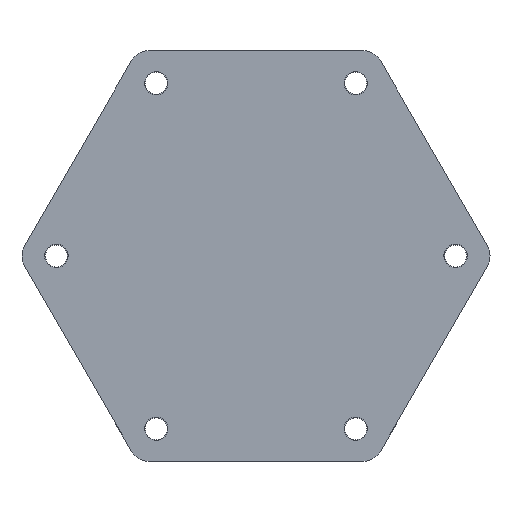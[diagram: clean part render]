
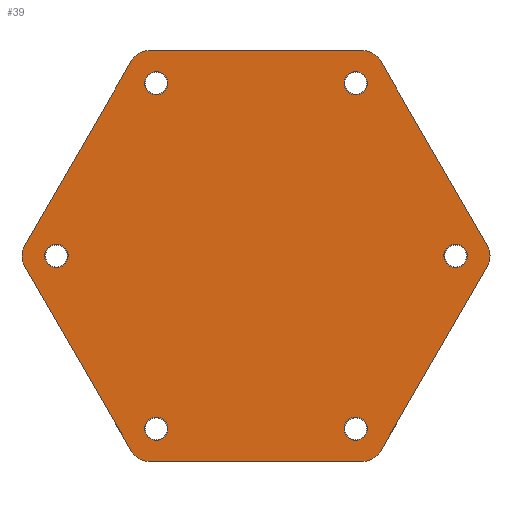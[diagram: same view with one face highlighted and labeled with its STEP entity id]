
A CAD part, top view. The second image highlights one B-rep face of the part: STEP entity #39.
In plain terms, the highlighted planar face has unit normal (0, 0, 1).
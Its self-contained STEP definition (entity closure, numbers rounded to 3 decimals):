
#39 = ADVANCED_FACE('',(#40,#144,#155,#166,#177,#188,#199),#210,.T.);
#40 = FACE_BOUND('',#41,.T.);
#41 = EDGE_LOOP('',(#42,#52,#61,#69,#78,#86,#95,#103,#112,#120,#129,#137
    ));
#42 = ORIENTED_EDGE('',*,*,#43,.F.);
#43 = EDGE_CURVE('',#44,#46,#48,.T.);
#44 = VERTEX_POINT('',#45);
#45 = CARTESIAN_POINT('',(18.1,28.35,4.6));
#46 = VERTEX_POINT('',#47);
#47 = CARTESIAN_POINT('',(33.602,1.5,4.6));
#48 = LINE('',#49,#50);
#49 = CARTESIAN_POINT('',(21.542,22.388,4.6));
#50 = VECTOR('',#51,1.);
#51 = DIRECTION('',(0.5,-0.866,0.));
#52 = ORIENTED_EDGE('',*,*,#53,.T.);
#53 = EDGE_CURVE('',#44,#54,#56,.T.);
#54 = VERTEX_POINT('',#55);
#55 = CARTESIAN_POINT('',(15.502,29.85,4.6));
#56 = CIRCLE('',#57,3.);
#57 = AXIS2_PLACEMENT_3D('',#58,#59,#60);
#58 = CARTESIAN_POINT('',(15.502,26.85,4.6));
#59 = DIRECTION('',(0.,0.,1.));
#60 = DIRECTION('',(0.5,0.866,0.));
#61 = ORIENTED_EDGE('',*,*,#62,.F.);
#62 = EDGE_CURVE('',#63,#54,#65,.T.);
#63 = VERTEX_POINT('',#64);
#64 = CARTESIAN_POINT('',(-15.502,29.85,4.6));
#65 = LINE('',#66,#67);
#66 = CARTESIAN_POINT('',(-8.617,29.85,4.6));
#67 = VECTOR('',#68,1.);
#68 = DIRECTION('',(1.,0.,0.));
#69 = ORIENTED_EDGE('',*,*,#70,.F.);
#70 = EDGE_CURVE('',#71,#63,#73,.T.);
#71 = VERTEX_POINT('',#72);
#72 = CARTESIAN_POINT('',(-18.1,28.35,4.6));
#73 = CIRCLE('',#74,3.);
#74 = AXIS2_PLACEMENT_3D('',#75,#76,#77);
#75 = CARTESIAN_POINT('',(-15.502,26.85,4.6));
#76 = DIRECTION('',(0.,0.,-1.));
#77 = DIRECTION('',(0.5,0.866,0.));
#78 = ORIENTED_EDGE('',*,*,#79,.F.);
#79 = EDGE_CURVE('',#80,#71,#82,.T.);
#80 = VERTEX_POINT('',#81);
#81 = CARTESIAN_POINT('',(-33.602,1.5,4.6));
#82 = LINE('',#83,#84);
#83 = CARTESIAN_POINT('',(-30.159,7.463,4.6));
#84 = VECTOR('',#85,1.);
#85 = DIRECTION('',(0.5,0.866,0.));
#86 = ORIENTED_EDGE('',*,*,#87,.F.);
#87 = EDGE_CURVE('',#88,#80,#90,.T.);
#88 = VERTEX_POINT('',#89);
#89 = CARTESIAN_POINT('',(-33.602,-1.5,4.6));
#90 = CIRCLE('',#91,3.);
#91 = AXIS2_PLACEMENT_3D('',#92,#93,#94);
#92 = CARTESIAN_POINT('',(-31.004,0.,4.6));
#93 = DIRECTION('',(0.,0.,-1.));
#94 = DIRECTION('',(0.5,0.866,0.));
#95 = ORIENTED_EDGE('',*,*,#96,.F.);
#96 = EDGE_CURVE('',#97,#88,#99,.T.);
#97 = VERTEX_POINT('',#98);
#98 = CARTESIAN_POINT('',(-18.1,-28.35,4.6));
#99 = LINE('',#100,#101);
#100 = CARTESIAN_POINT('',(-21.542,-22.388,4.6));
#101 = VECTOR('',#102,1.);
#102 = DIRECTION('',(-0.5,0.866,0.));
#103 = ORIENTED_EDGE('',*,*,#104,.F.);
#104 = EDGE_CURVE('',#105,#97,#107,.T.);
#105 = VERTEX_POINT('',#106);
#106 = CARTESIAN_POINT('',(-15.502,-29.85,4.6));
#107 = CIRCLE('',#108,3.);
#108 = AXIS2_PLACEMENT_3D('',#109,#110,#111);
#109 = CARTESIAN_POINT('',(-15.502,-26.85,4.6));
#110 = DIRECTION('',(0.,0.,-1.));
#111 = DIRECTION('',(0.5,0.866,0.));
#112 = ORIENTED_EDGE('',*,*,#113,.F.);
#113 = EDGE_CURVE('',#114,#105,#116,.T.);
#114 = VERTEX_POINT('',#115);
#115 = CARTESIAN_POINT('',(15.502,-29.85,4.6));
#116 = LINE('',#117,#118);
#117 = CARTESIAN_POINT('',(8.617,-29.85,4.6));
#118 = VECTOR('',#119,1.);
#119 = DIRECTION('',(-1.,0.,0.));
#120 = ORIENTED_EDGE('',*,*,#121,.F.);
#121 = EDGE_CURVE('',#122,#114,#124,.T.);
#122 = VERTEX_POINT('',#123);
#123 = CARTESIAN_POINT('',(18.1,-28.35,4.6));
#124 = CIRCLE('',#125,3.);
#125 = AXIS2_PLACEMENT_3D('',#126,#127,#128);
#126 = CARTESIAN_POINT('',(15.502,-26.85,4.6));
#127 = DIRECTION('',(0.,0.,-1.));
#128 = DIRECTION('',(0.5,0.866,0.));
#129 = ORIENTED_EDGE('',*,*,#130,.F.);
#130 = EDGE_CURVE('',#131,#122,#133,.T.);
#131 = VERTEX_POINT('',#132);
#132 = CARTESIAN_POINT('',(33.602,-1.5,4.6));
#133 = LINE('',#134,#135);
#134 = CARTESIAN_POINT('',(30.159,-7.463,4.6));
#135 = VECTOR('',#136,1.);
#136 = DIRECTION('',(-0.5,-0.866,0.));
#137 = ORIENTED_EDGE('',*,*,#138,.F.);
#138 = EDGE_CURVE('',#46,#131,#139,.T.);
#139 = CIRCLE('',#140,3.);
#140 = AXIS2_PLACEMENT_3D('',#141,#142,#143);
#141 = CARTESIAN_POINT('',(31.004,0.,4.6));
#142 = DIRECTION('',(0.,0.,-1.));
#143 = DIRECTION('',(0.5,0.866,0.));
#144 = FACE_BOUND('',#145,.T.);
#145 = EDGE_LOOP('',(#146));
#146 = ORIENTED_EDGE('',*,*,#147,.F.);
#147 = EDGE_CURVE('',#148,#148,#150,.T.);
#148 = VERTEX_POINT('',#149);
#149 = CARTESIAN_POINT('',(-15.35,26.587,4.6));
#150 = CIRCLE('',#151,1.7);
#151 = AXIS2_PLACEMENT_3D('',#152,#153,#154);
#152 = CARTESIAN_POINT('',(-14.5,25.115,4.6));
#153 = DIRECTION('',(0.,0.,1.));
#154 = DIRECTION('',(-0.5,0.866,0.));
#155 = FACE_BOUND('',#156,.T.);
#156 = EDGE_LOOP('',(#157));
#157 = ORIENTED_EDGE('',*,*,#158,.F.);
#158 = EDGE_CURVE('',#159,#159,#161,.T.);
#159 = VERTEX_POINT('',#160);
#160 = CARTESIAN_POINT('',(-30.7,0.,4.6));
#161 = CIRCLE('',#162,1.7);
#162 = AXIS2_PLACEMENT_3D('',#163,#164,#165);
#163 = CARTESIAN_POINT('',(-29.,0.,4.6));
#164 = DIRECTION('',(0.,0.,1.));
#165 = DIRECTION('',(-1.,0.,0.));
#166 = FACE_BOUND('',#167,.T.);
#167 = EDGE_LOOP('',(#168));
#168 = ORIENTED_EDGE('',*,*,#169,.F.);
#169 = EDGE_CURVE('',#170,#170,#172,.T.);
#170 = VERTEX_POINT('',#171);
#171 = CARTESIAN_POINT('',(15.35,26.587,4.6));
#172 = CIRCLE('',#173,1.7);
#173 = AXIS2_PLACEMENT_3D('',#174,#175,#176);
#174 = CARTESIAN_POINT('',(14.5,25.115,4.6));
#175 = DIRECTION('',(0.,0.,1.));
#176 = DIRECTION('',(0.5,0.866,0.));
#177 = FACE_BOUND('',#178,.T.);
#178 = EDGE_LOOP('',(#179));
#179 = ORIENTED_EDGE('',*,*,#180,.F.);
#180 = EDGE_CURVE('',#181,#181,#183,.T.);
#181 = VERTEX_POINT('',#182);
#182 = CARTESIAN_POINT('',(30.7,0.,4.6));
#183 = CIRCLE('',#184,1.7);
#184 = AXIS2_PLACEMENT_3D('',#185,#186,#187);
#185 = CARTESIAN_POINT('',(29.,0.,4.6));
#186 = DIRECTION('',(0.,0.,1.));
#187 = DIRECTION('',(1.,0.,0.));
#188 = FACE_BOUND('',#189,.T.);
#189 = EDGE_LOOP('',(#190));
#190 = ORIENTED_EDGE('',*,*,#191,.F.);
#191 = EDGE_CURVE('',#192,#192,#194,.T.);
#192 = VERTEX_POINT('',#193);
#193 = CARTESIAN_POINT('',(-15.35,-26.587,4.6));
#194 = CIRCLE('',#195,1.7);
#195 = AXIS2_PLACEMENT_3D('',#196,#197,#198);
#196 = CARTESIAN_POINT('',(-14.5,-25.115,4.6));
#197 = DIRECTION('',(0.,0.,1.));
#198 = DIRECTION('',(-0.5,-0.866,0.));
#199 = FACE_BOUND('',#200,.T.);
#200 = EDGE_LOOP('',(#201));
#201 = ORIENTED_EDGE('',*,*,#202,.F.);
#202 = EDGE_CURVE('',#203,#203,#205,.T.);
#203 = VERTEX_POINT('',#204);
#204 = CARTESIAN_POINT('',(15.35,-26.587,4.6));
#205 = CIRCLE('',#206,1.7);
#206 = AXIS2_PLACEMENT_3D('',#207,#208,#209);
#207 = CARTESIAN_POINT('',(14.5,-25.115,4.6));
#208 = DIRECTION('',(0.,0.,1.));
#209 = DIRECTION('',(0.5,-0.866,0.));
#210 = PLANE('',#211);
#211 = AXIS2_PLACEMENT_3D('',#212,#213,#214);
#212 = CARTESIAN_POINT('',(0.,0.,4.6));
#213 = DIRECTION('',(0.,0.,1.));
#214 = DIRECTION('',(-0.5,-0.866,0.));
